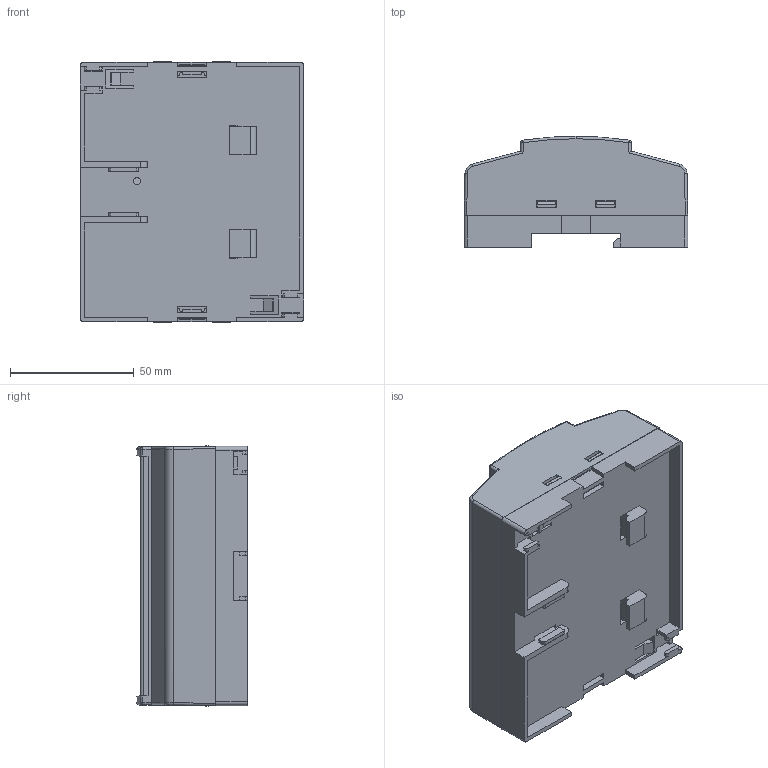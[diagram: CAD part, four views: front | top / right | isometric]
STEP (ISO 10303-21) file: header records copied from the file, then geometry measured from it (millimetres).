
FILE_DESCRIPTION (( 'STEP AP203' ), '1' );
FILE_NAME ('PT506.STEP', '2018-01-03T13:42:35', ( '' ), ( '' ), 'SwSTEP 2.0', 'SolidWorks 2015', '' );
FILE_SCHEMA (( 'CONFIG_CONTROL_DESIGN' ));
Length unit declared in the file: millimetre
Products named in the file (4): PT506
Assembly tree (3 placements, depth 2):
  PT506
    PT506
    PT506
    PT506
Bounding box: 90.6 x 44.92 x 105.4 mm (x, y, z)
Volume: 67534.9 mm3; surface area: 71494.5 mm2
Topology: 5 solids, 5 shells, 465 faces, 1315 edges, 861 vertices
Faces by surface type: plane 358, cylinder 80, bspline 15, torus 8, sphere 4
Entity records: 15969 total; most frequent: CARTESIAN_POINT 3548, ORIENTED_EDGE 2630, DIRECTION 2308, EDGE_CURVE 1315, LINE 1094, VECTOR 1094, VERTEX_POINT 861, AXIS2_PLACEMENT_3D 607
